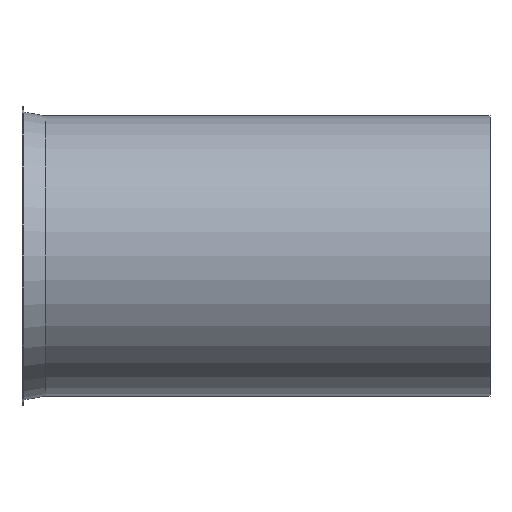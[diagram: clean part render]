
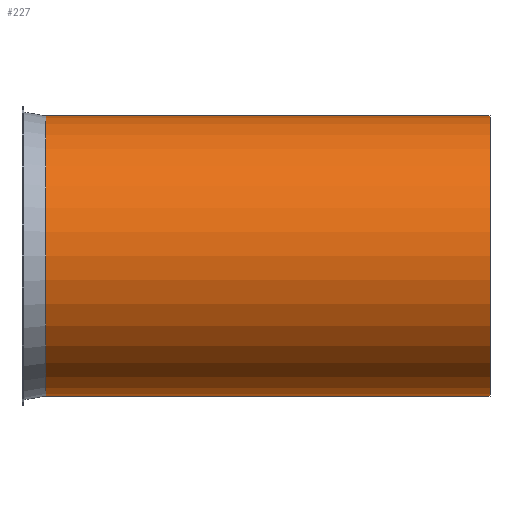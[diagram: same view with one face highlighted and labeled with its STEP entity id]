
A CAD part, front view. The second image highlights one B-rep face of the part: STEP entity #227.
In plain terms, the highlighted cylindrical face has radius 147.5 mm (diameter 295 mm), a full revolution.
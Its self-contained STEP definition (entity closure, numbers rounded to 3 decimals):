
#132=CARTESIAN_POINT('',(-2.081,46.834,0.0));
#133=VERTEX_POINT('',#132);
#134=CARTESIAN_POINT('',(-2.081,194.334,0.0));
#135=DIRECTION('',(-1.0,0.0,0.0));
#136=DIRECTION('',(0.0,-1.0,0.0));
#137=AXIS2_PLACEMENT_3D('',#134,#135,#136);
#138=CIRCLE('',#137,147.5);
#139=EDGE_CURVE('',#133,#133,#138,.T.);
#201=CARTESIAN_POINT('',(465.919,46.834,0.0));
#202=VERTEX_POINT('',#201);
#203=CARTESIAN_POINT('',(465.919,194.334,0.0));
#204=DIRECTION('',(-1.0,0.0,0.0));
#205=DIRECTION('',(0.0,-1.0,0.0));
#206=AXIS2_PLACEMENT_3D('',#203,#204,#205);
#207=CIRCLE('',#206,147.5);
#208=EDGE_CURVE('',#202,#202,#207,.T.);
#216=CARTESIAN_POINT('',(231.919,194.334,0.0));
#217=DIRECTION('',(-1.0,0.,0.0));
#218=DIRECTION('',(0.0,-1.0,0.0));
#219=AXIS2_PLACEMENT_3D('',#216,#217,#218);
#220=CYLINDRICAL_SURFACE('',#219,147.5);
#221=ORIENTED_EDGE('',*,*,#139,.F.);
#222=EDGE_LOOP('',(#221));
#223=FACE_OUTER_BOUND('',#222,.T.);
#224=ORIENTED_EDGE('',*,*,#208,.T.);
#225=EDGE_LOOP('',(#224));
#226=FACE_BOUND('',#225,.T.);
#227=ADVANCED_FACE('',(#223,#226),#220,.T.);
